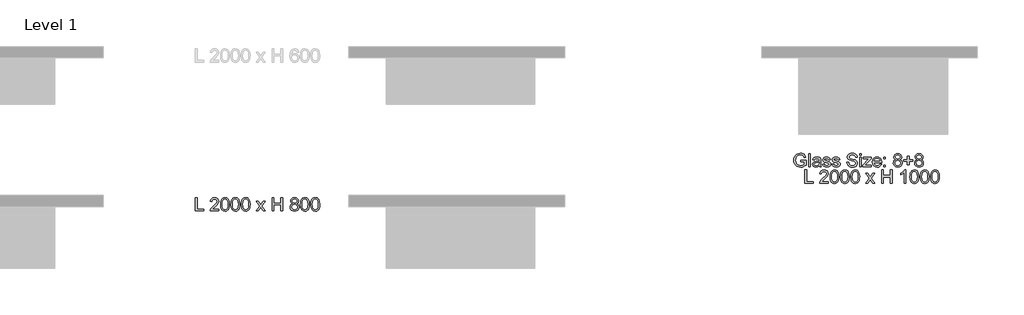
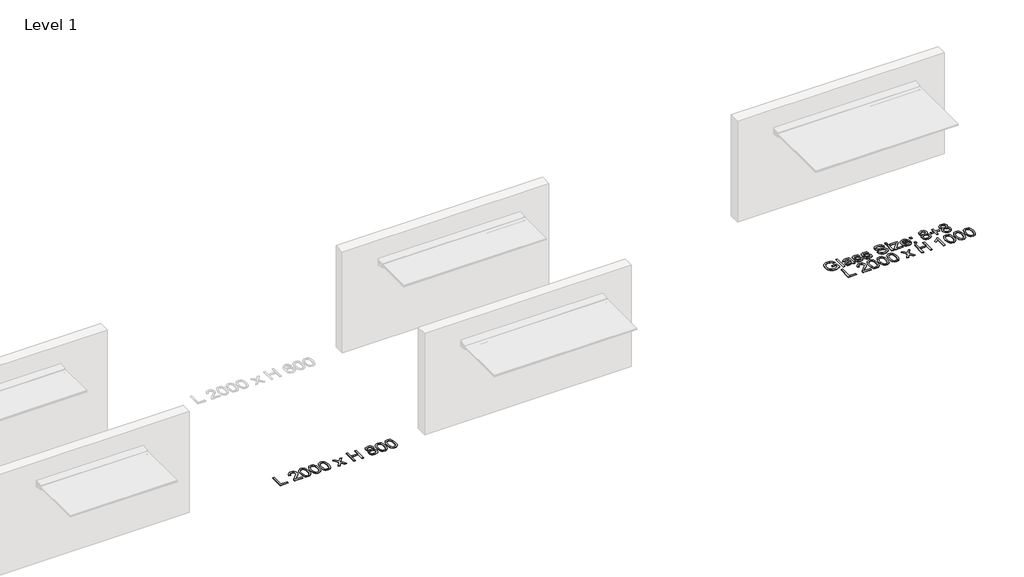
# One storey, part 2 of 6: 2 proxies.
"""IFC4 building model written with IfcOpenShell, lengths in millimetres."""

from ifc_helpers import new_model, si_unit, origin, origin_with_axes, place, context, project, spatial, polyline, outline, extrude, element, save

model = new_model("IFC4")

# Units and contexts
model_context = context("Model", 3, world=origin())
ifc_project = project(units=[si_unit("LENGTHUNIT", "METRE", prefix="MILLI")], contexts=[model_context])

# Site, building, storey
site = spatial("IfcSite", under=ifc_project)
building = spatial("IfcBuilding", under=site)
storey = spatial("IfcBuildingStorey", under=building, Name="Level 1", Elevation=0.0)

# Proxies
placement = place(None, origin())
element("IfcBuildingElementProxy", 1, Name="600mm Arial 3", ObjectType="600mm Arial 3", at=placement, inside=storey, context=model_context, shape_type="SweptSolid", body=[
    extrude(outline(polyline([(8472.1620309, -1499.2688788), (8472.1620309, -1318.4475205), (8494.7647007, -1318.4475205), (8494.7647007, -1476.666209), (8585.1753798, -1476.666209), (8585.1753798, -1499.2688788), (8472.1620309, -1499.2688788)])), origin_with_axes(), (0.0, 0.0, 1.0), 5.0),
    extrude(outline(polyline([(8788.5994079, -1476.666209), (8788.5994079, -1499.2688788), (8669.9353915, -1499.2688788), (8672.3634127, -1483.6853975), (8686.1148417, -1459.6921338), (8714.4343977, -1433.4915781), (8753.4372468, -1395.835177), (8760.737865, -1382.8563002), (8763.1714044, -1370.2305902), (8760.8703025, -1358.9127006), (8753.9669969, -1349.5041186), (8743.3554407, -1343.1636724), (8729.9295873, -1341.0501903), (8715.8305098, -1343.1140083), (8704.8768234, -1349.3054623), (8697.8079709, -1359.138948), (8695.363395, -1372.1288613), (8672.7607252, -1369.3035275), (8678.2403276, -1347.4403006), (8690.0879672, -1331.4705432), (8707.6856025, -1321.7032762), (8730.4151915, -1318.4475205), (8753.3103275, -1322.0674794), (8770.8748534, -1332.9273559), (8782.049269, -1349.1509518), (8785.7740742, -1368.8620692), (8781.7568028, -1390.2948742), (8768.4026864, -1412.4560856), (8736.0217131, -1443.4243919), (8710.0198137, -1465.1662178), (8699.8221248, -1476.666209), (8788.5994079, -1476.666209)])), origin_with_axes(), (0.0, 0.0, 1.0), 5.0),
    extrude(outline(polyline([(8811.2020777, -1410.3150124), (8812.8630649, -1381.3718964), (8817.8460265, -1358.2891406), (8826.1012985, -1340.7135783), (8837.5792167, -1328.2920427), (8852.3625547, -1320.9086511), (8870.5340859, -1318.4475205), (8896.9332978, -1324.2747713), (8907.3627524, -1331.3877697), (8915.1655295, -1341.0722632), (8925.760531, -1367.8246419), (8929.866094, -1410.3150124), (8928.2216615, -1439.0925814), (8923.288364, -1462.1201549), (8915.0827561, -1479.7122719), (8903.6213925, -1492.1834716), (8888.8049451, -1499.6165273), (8870.5340859, -1502.0942125), (8847.0484993, -1497.7899932), (8829.2135802, -1484.8773351), (8821.3335478, -1471.2611028), (8815.7049533, -1454.2953049), (8811.2020777, -1410.3150124)]), holes=[polyline([(8833.8047475, -1410.2708665), (8836.4534978, -1445.824822), (8844.3997489, -1466.4023014), (8856.2308339, -1476.2192324), (8870.5340859, -1479.4915427), (8884.8373378, -1476.2081959), (8896.6684228, -1466.3581555), (8904.6146739, -1445.7696397), (8907.2634243, -1410.2708665), (8904.7029656, -1375.5170544), (8897.0215895, -1354.7795464), (8885.2125775, -1344.4825293), (8870.2692108, -1341.0501903), (8856.1204693, -1344.0741803), (8844.7529156, -1353.1461503), (8836.5417895, -1375.1749242), (8833.8047475, -1410.2708665)])]), origin_with_axes(), (0.0, 0.0, 1.0), 5.0),
    extrude(outline(polyline([(8949.6434301, -1410.3150124), (8951.3044173, -1381.3718964), (8956.2873789, -1358.2891406), (8964.5426509, -1340.7135783), (8976.0205692, -1328.2920427), (8990.8039071, -1320.9086511), (9008.9754383, -1318.4475205), (9035.3746503, -1324.2747713), (9045.8041048, -1331.3877697), (9053.6068819, -1341.0722632), (9064.2018834, -1367.8246419), (9068.3074465, -1410.3150124), (9066.6630139, -1439.0925814), (9061.7297164, -1462.1201549), (9053.5241085, -1479.7122719), (9042.0627449, -1492.1834716), (9027.2462976, -1499.6165273), (9008.9754383, -1502.0942125), (8985.4898517, -1497.7899932), (8967.6549326, -1484.8773351), (8959.7749002, -1471.2611028), (8954.1463057, -1454.2953049), (8949.6434301, -1410.3150124)]), holes=[polyline([(8972.2460999, -1410.2708665), (8974.8948502, -1445.824822), (8982.8411013, -1466.4023014), (8994.6721863, -1476.2192324), (9008.9754383, -1479.4915427), (9023.2786903, -1476.2081959), (9035.1097752, -1466.3581555), (9043.0560263, -1445.7696397), (9045.7047767, -1410.2708665), (9043.144318, -1375.5170544), (9035.4629419, -1354.7795464), (9023.6539299, -1344.4825293), (9008.7105632, -1341.0501903), (8994.5618217, -1344.0741803), (8983.1942681, -1353.1461503), (8974.9831419, -1375.1749242), (8972.2460999, -1410.2708665)])]), origin_with_axes(), (0.0, 0.0, 1.0), 5.0),
    extrude(outline(polyline([(9088.0847825, -1410.3150124), (9089.7457697, -1381.3718964), (9094.7287314, -1358.2891406), (9102.9840033, -1340.7135783), (9114.4619216, -1328.2920427), (9129.2452596, -1320.9086511), (9147.4167907, -1318.4475205), (9173.8160027, -1324.2747713), (9184.2454572, -1331.3877697), (9192.0482344, -1341.0722632), (9202.6432358, -1367.8246419), (9206.7487989, -1410.3150124), (9205.1043664, -1439.0925814), (9200.1710688, -1462.1201549), (9191.9654609, -1479.7122719), (9180.5040974, -1492.1834716), (9165.68765, -1499.6165273), (9147.4167907, -1502.0942125), (9123.9312041, -1497.7899932), (9106.096285, -1484.8773351), (9098.2162527, -1471.2611028), (9092.5876581, -1454.2953049), (9088.0847825, -1410.3150124)]), holes=[polyline([(9110.6874523, -1410.2708665), (9113.3362027, -1445.824822), (9121.2824538, -1466.4023014), (9133.1135387, -1476.2192324), (9147.4167907, -1479.4915427), (9161.7200427, -1476.2081959), (9173.5511276, -1466.3581555), (9181.4973787, -1445.7696397), (9184.1461291, -1410.2708665), (9181.5856704, -1375.5170544), (9173.9042944, -1354.7795464), (9162.0952823, -1344.4825293), (9147.1519157, -1341.0501903), (9133.0031741, -1344.0741803), (9121.6356205, -1353.1461503), (9113.4244944, -1375.1749242), (9110.6874523, -1410.2708665)])]), origin_with_axes(), (0.0, 0.0, 1.0), 5.0),
    extrude(outline(polyline([(9288.6834769, -1499.2688788), (9336.9790252, -1432.4762238), (9291.5088106, -1366.4781938), (9318.614356, -1366.4781938), (9340.5548382, -1398.307344), (9350.8408188, -1413.2727836), (9359.7582783, -1401.0002402), (9384.7448234, -1366.4781938), (9411.9386605, -1366.4781938), (9364.1728623, -1432.5203696), (9410.1728269, -1499.2688788), (9383.0231357, -1499.2688788), (9355.2995485, -1459.0961649), (9350.2669228, -1451.7238097), (9315.8773139, -1499.2688788), (9288.6834769, -1499.2688788)])), origin_with_axes(), (0.0, 0.0, 1.0), 5.0),
    extrude(outline(polyline([(9503.4088398, -1499.2688788), (9503.4088398, -1318.4475205), (9526.0115096, -1318.4475205), (9526.0115096, -1391.9061973), (9622.0728562, -1391.9061973), (9622.0728562, -1318.4475205), (9644.6755259, -1318.4475205), (9644.6755259, -1499.2688788), (9622.0728562, -1499.2688788), (9622.0728562, -1414.5088671), (9526.0115096, -1414.5088671), (9526.0115096, -1499.2688788), (9503.4088398, -1499.2688788)])), origin_with_axes(), (0.0, 0.0, 1.0), 5.0),
    extrude(outline(polyline([(9779.3203362, -1399.6758651), (9767.218858, -1393.7161767), (9758.7263021, -1385.6374881), (9753.7102311, -1375.6053461), (9752.0382074, -1363.7852976), (9755.6802392, -1346.1159254), (9766.6063344, -1331.514689), (9783.5914461, -1321.7143126), (9805.4105273, -1318.4475205), (9827.3620459, -1321.7915679), (9844.5678868, -1331.8237099), (9855.6926384, -1346.6567119), (9859.4008889, -1364.4033394), (9857.7509381, -1375.84263), (9852.8010859, -1385.7037069), (9844.4961499, -1393.7327314), (9832.7809477, -1399.6758651), (9846.6924054, -1406.8440457), (9856.8183573, -1417.4004196), (9862.9932566, -1430.8373095), (9865.0515563, -1446.6470382), (9860.9680662, -1468.2564266), (9848.7175958, -1486.1134187), (9829.8011036, -1498.0990141), (9805.7195482, -1502.0942125), (9781.6379928, -1498.0824594), (9762.7215006, -1486.0471999), (9750.4710301, -1468.0191427), (9746.38754, -1446.0289965), (9748.5286132, -1429.6067442), (9754.9518328, -1416.0981173), (9765.3261051, -1405.9666472), (9779.3203362, -1399.6758651)]), holes=[polyline([(9774.6408772, -1364.4474852), (9776.6439947, -1374.3140803), (9782.6533471, -1382.1941127), (9792.492351, -1387.3591759), (9805.9844232, -1389.0808636), (9819.1619563, -1387.3702123), (9828.851968, -1382.2382585), (9834.8116563, -1374.6231012), (9836.7982191, -1365.4628395), (9834.7454376, -1355.9549294), (9828.587093, -1348.0914517), (9818.7646437, -1342.8105057), (9805.7195482, -1341.0501903), (9792.5916792, -1342.7718781), (9782.7857846, -1347.9369413), (9776.677104, -1355.5079527), (9774.6408772, -1364.4474852)]), polyline([(9768.9902098, -1445.2343713), (9772.764679, -1462.2525924), (9777.9904428, -1469.5532106), (9786.1187955, -1474.9886671), (9805.8961315, -1479.4915427), (9821.2809566, -1477.1242221), (9832.8250936, -1470.0222602), (9840.0429383, -1459.2672301), (9842.4488866, -1445.9407048), (9839.9656831, -1432.3879321), (9832.5160727, -1421.3956181), (9820.7070606, -1414.1115546), (9805.1456522, -1411.6835334), (9789.9760382, -1414.0784452), (9778.547784, -1421.2631805), (9771.3796033, -1432.0458018), (9768.9902098, -1445.2343713)])]), origin_with_axes(), (0.0, 0.0, 1.0), 5.0),
    extrude(outline(polyline([(9884.8288924, -1410.3150124), (9886.4898796, -1381.3718964), (9891.4728412, -1358.2891406), (9899.7281132, -1340.7135783), (9911.2060315, -1328.2920427), (9925.9893694, -1320.9086511), (9944.1609006, -1318.4475205), (9970.5601126, -1324.2747713), (9980.9895671, -1331.3877697), (9988.7923442, -1341.0722632), (9999.3873457, -1367.8246419), (10003.4929088, -1410.3150124), (10001.8484762, -1439.0925814), (9996.9151787, -1462.1201549), (9988.7095708, -1479.7122719), (9977.2482072, -1492.1834716), (9962.4317599, -1499.6165273), (9944.1609006, -1502.0942125), (9920.675314, -1497.7899932), (9902.8403949, -1484.8773351), (9894.9603625, -1471.2611028), (9889.331768, -1454.2953049), (9884.8288924, -1410.3150124)]), holes=[polyline([(9907.4315622, -1410.2708665), (9910.0803125, -1445.824822), (9918.0265636, -1466.4023014), (9929.8576486, -1476.2192324), (9944.1609006, -1479.4915427), (9958.4641526, -1476.2081959), (9970.2952375, -1466.3581555), (9978.2414886, -1445.7696397), (9980.890239, -1410.2708665), (9978.3297803, -1375.5170544), (9970.6484042, -1354.7795464), (9958.8393922, -1344.4825293), (9943.8960255, -1341.0501903), (9929.747284, -1344.0741803), (9918.3797304, -1353.1461503), (9910.1686042, -1375.1749242), (9907.4315622, -1410.2708665)])]), origin_with_axes(), (0.0, 0.0, 1.0), 5.0),
    extrude(outline(polyline([(10023.2702448, -1410.3150124), (10024.931232, -1381.3718964), (10029.9141937, -1358.2891406), (10038.1694656, -1340.7135783), (10049.6473839, -1328.2920427), (10064.4307219, -1320.9086511), (10082.602253, -1318.4475205), (10109.001465, -1324.2747713), (10119.4309195, -1331.3877697), (10127.2336967, -1341.0722632), (10137.8286981, -1367.8246419), (10141.9342612, -1410.3150124), (10140.2898287, -1439.0925814), (10135.3565311, -1462.1201549), (10127.1509232, -1479.7122719), (10115.6895597, -1492.1834716), (10100.8731123, -1499.6165273), (10082.602253, -1502.0942125), (10059.1166664, -1497.7899932), (10041.2817473, -1484.8773351), (10033.401715, -1471.2611028), (10027.7731204, -1454.2953049), (10023.2702448, -1410.3150124)]), holes=[polyline([(10045.8729146, -1410.2708665), (10048.521665, -1445.824822), (10056.4679161, -1466.4023014), (10068.299001, -1476.2192324), (10082.602253, -1479.4915427), (10096.905505, -1476.2081959), (10108.7365899, -1466.3581555), (10116.682841, -1445.7696397), (10119.3315914, -1410.2708665), (10116.7711327, -1375.5170544), (10109.0897567, -1354.7795464), (10097.2807446, -1344.4825293), (10082.337378, -1341.0501903), (10068.1886364, -1344.0741803), (10056.8210828, -1353.1461503), (10048.6099567, -1375.1749242), (10045.8729146, -1410.2708665)])]), origin_with_axes(), (0.0, 0.0, 1.0), 5.0),
])
element("IfcBuildingElementProxy", 2, Name="600mm Arial 3", ObjectType="600mm Arial 3", at=placement, inside=storey, context=model_context, shape_type="SweptSolid", body=[
    extrude(outline(polyline([(16606.0715057, -837.1901227), (16606.0715057, -814.5874529), (16679.5301825, -814.5874529), (16679.5301825, -882.174733), (16661.6787087, -894.5907504), (16643.2643754, -903.4971735), (16624.3313285, -908.860893), (16604.9237139, -910.6487995), (16579.5674473, -907.8069111), (16556.6502384, -899.2812458), (16537.6123452, -885.3697882), (16523.8940256, -866.3705225), (16515.600126, -843.5802329), (16512.8354928, -818.2957034), (16515.5890896, -792.8290723), (16523.8498798, -769.1393112), (16537.2757332, -749.2681652), (16555.5245195, -735.2573794), (16577.7519497, -726.9469252), (16603.1137344, -724.1767737), (16621.7322422, -725.7825787), (16638.4745518, -730.5999934), (16652.5736293, -738.2813694), (16663.2624406, -748.4790584), (16671.1700641, -761.6841826), (16676.9255779, -778.3878646), (16656.0887417, -784.2592612), (16645.7806882, -763.3562062), (16628.1664983, -751.3043921), (16602.7605677, -746.7794435), (16573.82297, -751.6575588), (16554.1339256, -764.4598522), (16542.5014969, -781.8753859), (16537.2039962, -798.9377528), (16535.4381626, -817.3686408), (16537.5626811, -838.9835474), (16543.9362367, -856.7688025), (16554.3656913, -870.5974866), (16568.6579068, -880.3426807), (16585.3836617, -886.1202674), (16603.1137344, -888.0461297), (16634.037895, -882.2409518), (16656.9275127, -869.8580438), (16656.9275127, -837.1901227), (16606.0715057, -837.1901227)])), origin_with_axes(), (0.0, 0.0, 1.0), 5.0),
    extrude(outline(polyline([(16713.4341871, -907.8234657), (16713.4341871, -727.0021075), (16736.0368569, -727.0021075), (16736.0368569, -907.8234657), (16713.4341871, -907.8234657)])), origin_with_axes(), (0.0, 0.0, 1.0), 5.0),
    extrude(outline(polyline([(16854.7008733, -890.8714634), (16832.782464, -906.1900697), (16808.5684711, -910.6487995), (16789.6795701, -907.9669397), (16775.7460395, -899.9213605), (16767.1541555, -887.7039994), (16764.2901942, -872.5067942), (16768.6164864, -854.6277292), (16779.9840401, -841.6488524), (16795.8103235, -834.2323514), (16815.3669304, -830.8331218), (16854.5684358, -823.0634541), (16854.7008733, -818.0308284), (16853.1447325, -807.9435041), (16848.4763099, -801.3437011), (16838.0358189, -796.4435129), (16823.4897648, -794.8101168), (16800.62222, -799.158482), (16794.2100368, -805.1899073), (16789.7181977, -814.5874529), (16767.1155279, -811.7621192), (16776.8938313, -789.6891995), (16785.2263585, -782.261662), (16796.5828757, -776.7544685), (16826.4033902, -772.207447), (16853.7958836, -776.2247184), (16869.2690003, -786.3120427), (16876.1998971, -801.6527219), (16877.3035431, -821.430058), (16877.3035431, -849.5509577), (16878.4513349, -888.8186819), (16882.9542105, -907.8234657), (16860.3515407, -907.8234657), (16854.7008733, -890.8714634)]), holes=[polyline([(16854.7008733, -845.6661238), (16818.2364099, -852.5970206), (16798.7901677, -856.2611253), (16789.9830727, -862.2208136), (16786.8928639, -870.917544), (16788.5759241, -877.638748), (16793.6251045, -883.1459415), (16813.3803676, -888.0461297), (16836.2479124, -882.6382644), (16850.9926228, -869.549023), (16854.5684358, -852.0672706), (16854.7008733, -845.6661238)])]), origin_with_axes(), (0.0, 0.0, 1.0), 5.0),
    extrude(outline(polyline([(16899.9062129, -868.2687936), (16922.5088826, -865.4434599), (16926.0736592, -875.1113987), (16932.9714466, -882.2188789), (16943.2463907, -886.589317), (16956.9426374, -888.0461297), (16970.4733372, -886.710718), (16979.9867656, -882.7044831), (16985.6153601, -876.8993052), (16987.4915583, -870.1670647), (16985.6043236, -864.4060327), (16979.9426197, -860.0135216), (16956.6777624, -853.5682291), (16922.6413202, -842.5096963), (16907.7862452, -829.5970383), (16902.7315466, -811.3648066), (16906.7929638, -794.5231689), (16917.8735695, -781.6546567), (16932.2430402, -774.966562), (16951.6892825, -772.207447), (16979.1921405, -776.6441039), (16996.6738929, -788.6517722), (17004.4435606, -808.9367854), (16981.8408908, -811.7621192), (16978.987966, -804.6491208), (16973.3428167, -799.2909195), (16953.4551161, -794.8101168), (16931.8236548, -799.0922632), (16925.3342164, -809.069223), (16928.0271126, -815.646953), (16936.4589679, -820.6354329), (16955.9272831, -825.4473294), (16989.1028814, -836.0864767), (17004.5097794, -848.1382908), (17008.6981159, -857.0005681), (17010.0942281, -867.7831894), (17008.4553138, -878.9300138), (17003.5385709, -889.4146507), (16995.5316193, -898.4148837), (16984.6220787, -905.1084966), (16956.6336165, -910.6487995), (16933.8433269, -907.9779762), (16917.2113819, -899.9655063), (16906.1087033, -886.6996816), (16899.9062129, -868.2687936)])), origin_with_axes(), (0.0, 0.0, 1.0), 5.0),
    extrude(outline(polyline([(17027.0462304, -868.2687936), (17049.6489002, -865.4434599), (17053.2136767, -875.1113987), (17060.1114641, -882.2188789), (17070.3864082, -886.589317), (17084.0826549, -888.0461297), (17097.6133547, -886.710718), (17107.1267831, -882.7044831), (17112.7553776, -876.8993052), (17114.6315758, -870.1670647), (17112.7443412, -864.4060327), (17107.0826373, -860.0135216), (17083.8177799, -853.5682291), (17049.7813377, -842.5096963), (17034.9262627, -829.5970383), (17029.8715641, -811.3648066), (17033.9329813, -794.5231689), (17045.013587, -781.6546567), (17059.3830578, -774.966562), (17078.8293, -772.207447), (17106.332158, -776.6441039), (17123.8139104, -788.6517722), (17131.5835781, -808.9367854), (17108.9809084, -811.7621192), (17106.1279835, -804.6491208), (17100.4828343, -799.2909195), (17080.5951336, -794.8101168), (17058.9636723, -799.0922632), (17052.4742339, -809.069223), (17055.1671301, -815.646953), (17063.5989854, -820.6354329), (17083.0673006, -825.4473294), (17116.2428989, -836.0864767), (17131.6497969, -848.1382908), (17135.8381334, -857.0005681), (17137.2342456, -867.7831894), (17135.5953313, -878.9300138), (17130.6785884, -889.4146507), (17122.6716368, -898.4148837), (17111.7620962, -905.1084966), (17083.7736341, -910.6487995), (17060.9833445, -907.9779762), (17044.3513995, -899.9655063), (17033.2487208, -886.6996816), (17027.0462304, -868.2687936)])), origin_with_axes(), (0.0, 0.0, 1.0), 5.0),
    extrude(outline(polyline([(17227.6449247, -845.6661238), (17250.2475945, -845.6661238), (17257.531658, -868.2908665), (17264.8488309, -876.2922999), (17275.3224313, -882.5941185), (17302.4279767, -888.0461297), (17326.0460008, -883.9184937), (17341.2983883, -872.573013), (17346.3089411, -857.4089171), (17342.5565447, -843.3043214), (17327.1937926, -833.0404138), (17294.2830693, -824.4099022), (17258.8560332, -813.2630777), (17247.6043624, -805.6589569), (17239.6305201, -796.4435129), (17234.8793242, -785.815402), (17233.2955922, -773.9732806), (17235.2545638, -760.735047), (17241.1314787, -748.3907667), (17250.7718264, -737.9282027), (17264.0210964, -730.3351183), (17279.9246351, -725.7163599), (17297.5277885, -724.1767737), (17316.5987912, -725.7880969), (17333.2859185, -730.6220663), (17346.9932016, -738.5793539), (17357.1246717, -749.5606314), (17363.5368549, -762.8816385), (17366.0862772, -777.8581145), (17343.4836074, -777.8581145), (17339.3338985, -764.3715605), (17330.6813139, -754.6374029), (17317.1616506, -748.7439334), (17298.4107053, -746.7794435), (17279.2183016, -748.7218605), (17266.051805, -754.5491113), (17258.4366477, -763.1244406), (17255.898262, -773.311093), (17257.6972049, -781.9967869), (17263.0940338, -788.982866), (17275.8521814, -795.2295023), (17299.9999555, -801.6085761), (17339.9960861, -812.9540568), (17352.8811529, -821.1541465), (17361.8703495, -831.2745802), (17367.1512955, -843.2049933), (17368.9116109, -856.8350212), (17366.8864205, -870.7685518), (17360.8108493, -883.8743479), (17350.9332178, -895.1536098), (17337.5018461, -903.6075381), (17321.3499871, -908.8884841), (17303.3108935, -910.6487995), (17281.1662368, -908.7505284), (17262.9395233, -903.0557151), (17248.4210604, -893.5422867), (17237.4011552, -880.1881703), (17230.3267845, -863.9204284), (17227.6449247, -845.6661238)])), origin_with_axes(), (0.0, 0.0, 1.0), 5.0),
    extrude(outline(polyline([(17399.9902818, -749.6047773), (17399.9902818, -727.0021075), (17422.5929516, -727.0021075), (17422.5929516, -749.6047773), (17399.9902818, -749.6047773)])), origin_with_axes(), (0.0, 0.0, 1.0), 5.0),
    extrude(outline(polyline([(17399.9902818, -907.8234657), (17399.9902818, -775.0327808), (17422.5929516, -775.0327808), (17422.5929516, -907.8234657), (17399.9902818, -907.8234657)])), origin_with_axes(), (0.0, 0.0, 1.0), 5.0),
    extrude(outline(polyline([(17442.3702877, -907.8234657), (17442.3702877, -886.5451711), (17520.3759859, -797.6354505), (17497.2877119, -797.6354505), (17448.0209551, -797.6354505), (17448.0209551, -775.0327808), (17552.5583029, -775.0327808), (17552.5583029, -794.2362209), (17483.3817725, -873.124836), (17472.786771, -885.220796), (17498.921108, -885.220796), (17555.3836366, -885.220796), (17555.3836366, -907.8234657), (17442.3702877, -907.8234657)])), origin_with_axes(), (0.0, 0.0, 1.0), 5.0),
    extrude(outline(polyline([(17670.9574442, -868.2687936), (17693.1186556, -871.0941273), (17685.1337769, -887.7922911), (17672.392184, -900.2745272), (17655.1808248, -908.0552314), (17633.7866474, -910.6487995), (17607.2660344, -906.173515), (17586.8596201, -892.7476616), (17573.8476339, -871.2431196), (17569.5103052, -842.5317692), (17573.8917798, -812.8547287), (17587.0362035, -790.6604079), (17607.1667062, -776.8206873), (17632.5064181, -772.207447), (17657.057023, -776.8096508), (17676.6743304, -790.6162621), (17689.5373244, -812.766437), (17693.824989, -842.3993317), (17693.6925515, -848.4914576), (17592.112975, -848.4914576), (17596.0254, -865.4103505), (17605.1139247, -877.8484408), (17618.2307572, -885.4967075), (17634.2281058, -888.0461297), (17656.3893172, -883.3225249), (17664.6225162, -877.1972896), (17670.9574442, -868.2687936)]), holes=[polyline([(17592.112975, -825.8887878), (17671.2223192, -825.8887878), (17668.1652199, -813.9473382), (17662.1724222, -805.4051183), (17648.9948891, -797.4588672), (17632.4181264, -794.8101168), (17617.1822936, -796.9235989), (17604.5841746, -803.2640451), (17595.8267437, -813.1471949), (17592.112975, -825.8887878)])]), origin_with_axes(), (0.0, 0.0, 1.0), 5.0),
    extrude(outline(polyline([(17722.0783262, -797.6354505), (17722.0783262, -775.0327808), (17744.680996, -775.0327808), (17744.680996, -797.6354505), (17722.0783262, -797.6354505)])), origin_with_axes(), (0.0, 0.0, 1.0), 5.0),
    extrude(outline(polyline([(17722.0783262, -907.8234657), (17722.0783262, -885.220796), (17744.680996, -885.220796), (17744.680996, -907.8234657), (17722.0783262, -907.8234657)])), origin_with_axes(), (0.0, 0.0, 1.0), 5.0),
    extrude(outline(polyline([(17884.9764737, -808.230452), (17872.8749955, -802.2707637), (17864.3824396, -794.1920751), (17859.3663686, -784.1599331), (17857.6943449, -772.3398846), (17861.3363767, -754.6705123), (17872.262472, -740.0692759), (17889.2475837, -730.2688996), (17911.0666648, -727.0021075), (17933.0181835, -730.3461548), (17950.2240244, -740.3782968), (17961.3487759, -755.2112989), (17965.0570264, -772.9579263), (17963.4070757, -784.3972169), (17958.4572234, -794.2582938), (17950.1522874, -802.2873184), (17938.4370852, -808.230452), (17952.3485429, -815.3986327), (17962.4744948, -825.9550065), (17968.6493941, -839.3918964), (17970.7076939, -855.2016252), (17966.6242037, -876.8110135), (17954.3737333, -894.6680056), (17935.4572411, -906.653601), (17911.3756857, -910.6487995), (17887.2941303, -906.6370463), (17868.3776381, -894.6017868), (17856.1271676, -876.5737297), (17852.0436775, -854.5835834), (17854.1847507, -838.1613311), (17860.6079703, -824.6527043), (17870.9822426, -814.5212341), (17884.9764737, -808.230452)]), holes=[polyline([(17880.2970147, -773.0020721), (17882.3001322, -782.8686673), (17888.3094846, -790.7486996), (17898.1484885, -795.9137628), (17911.6405607, -797.6354505), (17924.8180938, -795.9247993), (17934.5081055, -790.7928454), (17940.4677939, -783.1776881), (17942.4543566, -774.0174265), (17940.4015751, -764.5095163), (17934.2432305, -756.6460386), (17924.4207812, -751.3650926), (17911.3756857, -749.6047773), (17898.2478167, -751.326465), (17888.4419221, -756.4915282), (17882.3332416, -764.0625397), (17880.2970147, -773.0020721)]), polyline([(17874.6463473, -853.7889583), (17878.4208166, -870.8071794), (17883.6465803, -878.1077976), (17891.774933, -883.5432541), (17911.552269, -888.0461297), (17926.9370941, -885.678809), (17938.4812311, -878.5768471), (17945.6990758, -867.821817), (17948.1050241, -854.4952917), (17945.6218206, -840.942519), (17938.1722102, -829.950205), (17926.3631982, -822.6661415), (17910.8017898, -820.2381203), (17895.6321757, -822.6330321), (17884.2039215, -829.8177675), (17877.0357408, -840.6003888), (17874.6463473, -853.7889583)])]), origin_with_axes(), (0.0, 0.0, 1.0), 5.0),
    extrude(outline(polyline([(18041.3410369, -879.5701285), (18041.3410369, -831.5394552), (17993.3103636, -831.5394552), (17993.3103636, -808.9367854), (18041.3410369, -808.9367854), (18041.3410369, -760.9061121), (18063.9437067, -760.9061121), (18063.9437067, -808.9367854), (18111.97438, -808.9367854), (18111.97438, -831.5394552), (18063.9437067, -831.5394552), (18063.9437067, -879.5701285), (18041.3410369, -879.5701285)])), origin_with_axes(), (0.0, 0.0, 1.0), 5.0),
    extrude(outline(polyline([(18170.3351797, -808.230452), (18158.2337015, -802.2707637), (18149.7411456, -794.1920751), (18144.7250746, -784.1599331), (18143.053051, -772.3398846), (18146.6950827, -754.6705123), (18157.621178, -740.0692759), (18174.6062897, -730.2688996), (18196.4253708, -727.0021075), (18218.3768895, -730.3461548), (18235.5827304, -740.3782968), (18246.7074819, -755.2112989), (18250.4157324, -772.9579263), (18248.7657817, -784.3972169), (18243.8159294, -794.2582938), (18235.5109934, -802.2873184), (18223.7957913, -808.230452), (18237.7072489, -815.3986327), (18247.8332008, -825.9550065), (18254.0081001, -839.3918964), (18256.0663999, -855.2016252), (18251.9829097, -876.8110135), (18239.7324393, -894.6680056), (18220.8159471, -906.653601), (18196.7343917, -910.6487995), (18172.6528363, -906.6370463), (18153.7363441, -894.6017868), (18141.4858737, -876.5737297), (18137.4023835, -854.5835834), (18139.5434567, -838.1613311), (18145.9666764, -824.6527043), (18156.3409486, -814.5212341), (18170.3351797, -808.230452)]), holes=[polyline([(18165.6557207, -773.0020721), (18167.6588382, -782.8686673), (18173.6681906, -790.7486996), (18183.5071946, -795.9137628), (18196.9992667, -797.6354505), (18210.1767998, -795.9247993), (18219.8668116, -790.7928454), (18225.8264999, -783.1776881), (18227.8130627, -774.0174265), (18225.7602811, -764.5095163), (18219.6019365, -756.6460386), (18209.7794873, -751.3650926), (18196.7343917, -749.6047773), (18183.6065227, -751.326465), (18173.8006281, -756.4915282), (18167.6919476, -764.0625397), (18165.6557207, -773.0020721)]), polyline([(18160.0050533, -853.7889583), (18163.7795226, -870.8071794), (18169.0052863, -878.1077976), (18177.133639, -883.5432541), (18196.9109751, -888.0461297), (18212.2958001, -885.678809), (18223.8399371, -878.5768471), (18231.0577819, -867.821817), (18233.4637301, -854.4952917), (18230.9805266, -840.942519), (18223.5309162, -829.950205), (18211.7219042, -822.6661415), (18196.1604958, -820.2381203), (18180.9908817, -822.6330321), (18169.5626275, -829.8177675), (18162.3944469, -840.6003888), (18160.0050533, -853.7889583)])]), origin_with_axes(), (0.0, 0.0, 1.0), 5.0),
    extrude(outline(polyline([(16662.5781801, -1127.3781379), (16662.5781801, -946.5567796), (16685.1808499, -946.5567796), (16685.1808499, -1104.7754681), (16775.5915291, -1104.7754681), (16775.5915291, -1127.3781379), (16662.5781801, -1127.3781379)])), origin_with_axes(), (0.0, 0.0, 1.0), 5.0),
    extrude(outline(polyline([(16979.0155571, -1104.7754681), (16979.0155571, -1127.3781379), (16860.3515407, -1127.3781379), (16862.7795619, -1111.7946565), (16876.5309909, -1087.8013928), (16904.8505469, -1061.6008371), (16943.853396, -1023.9444361), (16951.1540142, -1010.9655593), (16953.5875536, -998.3398492), (16951.2864517, -987.0219597), (16944.3831461, -977.6133776), (16933.7715899, -971.2729314), (16920.3457365, -969.1594494), (16906.2466591, -971.2232674), (16895.2929726, -977.4147213), (16888.2241201, -987.2482071), (16885.7795442, -1000.2381203), (16863.1768745, -997.4127866), (16868.6564768, -975.5495596), (16880.5041164, -959.5798022), (16898.1017517, -949.8125353), (16920.8313407, -946.5567796), (16943.7264767, -950.1767384), (16961.2910026, -961.0366149), (16972.4654182, -977.2602109), (16976.1902234, -996.9713282), (16972.172952, -1018.4041333), (16958.8188356, -1040.5653446), (16926.4378624, -1071.533651), (16900.4359629, -1093.2754769), (16890.238274, -1104.7754681), (16979.0155571, -1104.7754681)])), origin_with_axes(), (0.0, 0.0, 1.0), 5.0),
    extrude(outline(polyline([(17001.6182269, -1038.4242714), (17003.2792141, -1009.4811555), (17008.2621757, -986.3983997), (17016.5174477, -968.8228374), (17027.9953659, -956.4013018), (17042.7787039, -949.0179101), (17060.9502351, -946.5567796), (17087.349447, -952.3840304), (17097.7789016, -959.4970288), (17105.5816787, -969.1815223), (17116.1766802, -995.933901), (17120.2822433, -1038.4242714), (17118.6378107, -1067.2018405), (17113.7045132, -1090.229414), (17105.4989053, -1107.821531), (17094.0375417, -1120.2927306), (17079.2210944, -1127.7257863), (17060.9502351, -1130.2034716), (17037.4646485, -1125.8992522), (17019.6297294, -1112.9865942), (17011.749697, -1099.3703619), (17006.1211025, -1082.404564), (17001.6182269, -1038.4242714)]), holes=[polyline([(17024.2208967, -1038.3801256), (17026.869647, -1073.934081), (17034.8158981, -1094.5115604), (17046.6469831, -1104.3284915), (17060.9502351, -1107.6008018), (17075.253487, -1104.317455), (17087.084572, -1094.4674146), (17095.0308231, -1073.8788987), (17097.6795735, -1038.3801256), (17095.1191148, -1003.6263135), (17087.4377387, -982.8888054), (17075.6287267, -972.5917884), (17060.68536, -969.1594494), (17046.5366185, -972.1834394), (17035.1690649, -981.2554094), (17026.9579387, -1003.2841832), (17024.2208967, -1038.3801256)])]), origin_with_axes(), (0.0, 0.0, 1.0), 5.0),
    extrude(outline(polyline([(17140.0595793, -1038.4242714), (17141.7205665, -1009.4811555), (17146.7035281, -986.3983997), (17154.9588001, -968.8228374), (17166.4367184, -956.4013018), (17181.2200563, -949.0179101), (17199.3915875, -946.5567796), (17225.7907995, -952.3840304), (17236.220254, -959.4970288), (17244.0230312, -969.1815223), (17254.6180326, -995.933901), (17258.7235957, -1038.4242714), (17257.0791632, -1067.2018405), (17252.1458656, -1090.229414), (17243.9402577, -1107.821531), (17232.4788941, -1120.2927306), (17217.6624468, -1127.7257863), (17199.3915875, -1130.2034716), (17175.9060009, -1125.8992522), (17158.0710818, -1112.9865942), (17150.1910495, -1099.3703619), (17144.5624549, -1082.404564), (17140.0595793, -1038.4242714)]), holes=[polyline([(17162.6622491, -1038.3801256), (17165.3109995, -1073.934081), (17173.2572506, -1094.5115604), (17185.0883355, -1104.3284915), (17199.3915875, -1107.6008018), (17213.6948395, -1104.317455), (17225.5259244, -1094.4674146), (17233.4721755, -1073.8788987), (17236.1209259, -1038.3801256), (17233.5604672, -1003.6263135), (17225.8790912, -982.8888054), (17214.0700791, -972.5917884), (17199.1267125, -969.1594494), (17184.9779709, -972.1834394), (17173.6104173, -981.2554094), (17165.3992911, -1003.2841832), (17162.6622491, -1038.3801256)])]), origin_with_axes(), (0.0, 0.0, 1.0), 5.0),
    extrude(outline(polyline([(17278.5009317, -1038.4242714), (17280.1619189, -1009.4811555), (17285.1448806, -986.3983997), (17293.4001525, -968.8228374), (17304.8780708, -956.4013018), (17319.6614088, -949.0179101), (17337.8329399, -946.5567796), (17364.2321519, -952.3840304), (17374.6616065, -959.4970288), (17382.4643836, -969.1815223), (17393.059385, -995.933901), (17397.1649481, -1038.4242714), (17395.5205156, -1067.2018405), (17390.587218, -1090.229414), (17382.3816101, -1107.821531), (17370.9202466, -1120.2927306), (17356.1037992, -1127.7257863), (17337.8329399, -1130.2034716), (17314.3473534, -1125.8992522), (17296.5124342, -1112.9865942), (17288.6324019, -1099.3703619), (17283.0038074, -1082.404564), (17278.5009317, -1038.4242714)]), holes=[polyline([(17301.1036015, -1038.3801256), (17303.7523519, -1073.934081), (17311.698603, -1094.5115604), (17323.529688, -1104.3284915), (17337.8329399, -1107.6008018), (17352.1361919, -1104.317455), (17363.9672769, -1094.4674146), (17371.913528, -1073.8788987), (17374.5622783, -1038.3801256), (17372.0018196, -1003.6263135), (17364.3204436, -982.8888054), (17352.5114315, -972.5917884), (17337.5680649, -969.1594494), (17323.4193234, -972.1834394), (17312.0517697, -981.2554094), (17303.8406436, -1003.2841832), (17301.1036015, -1038.3801256)])]), origin_with_axes(), (0.0, 0.0, 1.0), 5.0),
    extrude(outline(polyline([(17479.0996261, -1127.3781379), (17527.3951744, -1060.5854828), (17481.9249598, -994.5874529), (17509.0305052, -994.5874529), (17530.9709874, -1026.4166031), (17541.256968, -1041.3820427), (17550.1744275, -1029.1094993), (17575.1609727, -994.5874529), (17602.3548097, -994.5874529), (17554.5890115, -1060.6296287), (17600.5889762, -1127.3781379), (17573.4392849, -1127.3781379), (17545.7156978, -1087.205424), (17540.6830721, -1079.8330688), (17506.2934632, -1127.3781379), (17479.0996261, -1127.3781379)])), origin_with_axes(), (0.0, 0.0, 1.0), 5.0),
    extrude(outline(polyline([(17693.824989, -1127.3781379), (17693.824989, -946.5567796), (17716.4276588, -946.5567796), (17716.4276588, -1020.0154564), (17812.4890054, -1020.0154564), (17812.4890054, -946.5567796), (17835.0916752, -946.5567796), (17835.0916752, -1127.3781379), (17812.4890054, -1127.3781379), (17812.4890054, -1042.6181262), (17716.4276588, -1042.6181262), (17716.4276588, -1127.3781379), (17693.824989, -1127.3781379)])), origin_with_axes(), (0.0, 0.0, 1.0), 5.0),
    extrude(outline(polyline([(18021.5637009, -1127.3781379), (17998.9610311, -1127.3781379), (17998.9610311, -986.4646184), (17977.550299, -1001.717006), (17953.7556915, -1013.1287054), (17953.7556915, -991.7621192), (17986.887144, -970.6162621), (18006.9955739, -946.5567796), (18021.5637009, -946.5567796), (18021.5637009, -1127.3781379)])), origin_with_axes(), (0.0, 0.0, 1.0), 5.0),
    extrude(outline(polyline([(18075.2450416, -1038.4242714), (18076.9060288, -1009.4811555), (18081.8889904, -986.3983997), (18090.1442624, -968.8228374), (18101.6221807, -956.4013018), (18116.4055186, -949.0179101), (18134.5770498, -946.5567796), (18160.9762618, -952.3840304), (18171.4057163, -959.4970288), (18179.2084935, -969.1815223), (18189.8034949, -995.933901), (18193.909058, -1038.4242714), (18192.2646255, -1067.2018405), (18187.3313279, -1090.229414), (18179.12572, -1107.821531), (18167.6643564, -1120.2927306), (18152.8479091, -1127.7257863), (18134.5770498, -1130.2034716), (18111.0914632, -1125.8992522), (18093.2565441, -1112.9865942), (18085.3765118, -1099.3703619), (18079.7479172, -1082.404564), (18075.2450416, -1038.4242714)]), holes=[polyline([(18097.8477114, -1038.3801256), (18100.4964618, -1073.934081), (18108.4427129, -1094.5115604), (18120.2737978, -1104.3284915), (18134.5770498, -1107.6008018), (18148.8803018, -1104.317455), (18160.7113867, -1094.4674146), (18168.6576378, -1073.8788987), (18171.3063882, -1038.3801256), (18168.7459295, -1003.6263135), (18161.0645534, -982.8888054), (18149.2555414, -972.5917884), (18134.3121748, -969.1594494), (18120.1634332, -972.1834394), (18108.7958796, -981.2554094), (18100.5847534, -1003.2841832), (18097.8477114, -1038.3801256)])]), origin_with_axes(), (0.0, 0.0, 1.0), 5.0),
    extrude(outline(polyline([(18213.686394, -1038.4242714), (18215.3473812, -1009.4811555), (18220.3303429, -986.3983997), (18228.5856148, -968.8228374), (18240.0635331, -956.4013018), (18254.8468711, -949.0179101), (18273.0184022, -946.5567796), (18299.4176142, -952.3840304), (18309.8470688, -959.4970288), (18317.6498459, -969.1815223), (18328.2448473, -995.933901), (18332.3504104, -1038.4242714), (18330.7059779, -1067.2018405), (18325.7726803, -1090.229414), (18317.5670724, -1107.821531), (18306.1057089, -1120.2927306), (18291.2892615, -1127.7257863), (18273.0184022, -1130.2034716), (18249.5328156, -1125.8992522), (18231.6978965, -1112.9865942), (18223.8178642, -1099.3703619), (18218.1892697, -1082.404564), (18213.686394, -1038.4242714)]), holes=[polyline([(18236.2890638, -1038.3801256), (18238.9378142, -1073.934081), (18246.8840653, -1094.5115604), (18258.7151502, -1104.3284915), (18273.0184022, -1107.6008018), (18287.3216542, -1104.317455), (18299.1527392, -1094.4674146), (18307.0989903, -1073.8788987), (18309.7477406, -1038.3801256), (18307.1872819, -1003.6263135), (18299.5059059, -982.8888054), (18287.6968938, -972.5917884), (18272.7535272, -969.1594494), (18258.6047857, -972.1834394), (18247.237232, -981.2554094), (18239.0261059, -1003.2841832), (18236.2890638, -1038.3801256)])]), origin_with_axes(), (0.0, 0.0, 1.0), 5.0),
    extrude(outline(polyline([(18352.1277465, -1038.4242714), (18353.7887337, -1009.4811555), (18358.7716953, -986.3983997), (18367.0269673, -968.8228374), (18378.5048855, -956.4013018), (18393.2882235, -949.0179101), (18411.4597546, -946.5567796), (18437.8589666, -952.3840304), (18448.2884212, -959.4970288), (18456.0911983, -969.1815223), (18466.6861998, -995.933901), (18470.7917628, -1038.4242714), (18469.1473303, -1067.2018405), (18464.2140328, -1090.229414), (18456.0084249, -1107.821531), (18444.5470613, -1120.2927306), (18429.7306139, -1127.7257863), (18411.4597546, -1130.2034716), (18387.9741681, -1125.8992522), (18370.1392489, -1112.9865942), (18362.2592166, -1099.3703619), (18356.6306221, -1082.404564), (18352.1277465, -1038.4242714)]), holes=[polyline([(18374.7304162, -1038.3801256), (18377.3791666, -1073.934081), (18385.3254177, -1094.5115604), (18397.1565027, -1104.3284915), (18411.4597546, -1107.6008018), (18425.7630066, -1104.317455), (18437.5940916, -1094.4674146), (18445.5403427, -1073.8788987), (18448.189093, -1038.3801256), (18445.6286344, -1003.6263135), (18437.9472583, -982.8888054), (18426.1382463, -972.5917884), (18411.1948796, -969.1594494), (18397.0461381, -972.1834394), (18385.6785844, -981.2554094), (18377.4674583, -1003.2841832), (18374.7304162, -1038.3801256)])]), origin_with_axes(), (0.0, 0.0, 1.0), 5.0),
])

save(model, "model.ifc")
